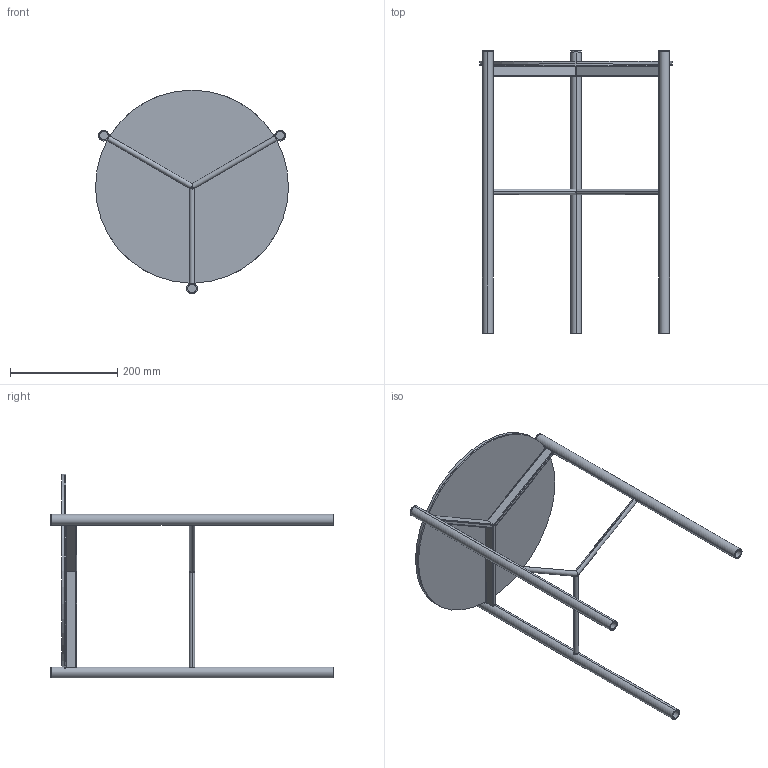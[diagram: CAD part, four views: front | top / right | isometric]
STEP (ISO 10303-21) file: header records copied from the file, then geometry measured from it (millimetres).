
FILE_DESCRIPTION (( 'STEP AP203' ), '1' );
FILE_NAME ('J601G.STEP', '2024-08-06T11:33:35', ( '' ), ( '' ), 'SwSTEP 2.0', 'SolidWorks 2022', '' );
FILE_SCHEMA (( 'CONFIG_CONTROL_DESIGN' ));
Length unit declared in the file: millimetre
Products named in the file (3): J601G; JXXXS00000000-00-jack metallo grezzo tutte le misure_J7B000001-JACK TAVOLINO D.36x51h<A macchina>; C1XCRMXX-00-piani Rotondi Cristallo_C15 D.36cm
Assembly tree (2 placements, depth 2):
  J601G
    JXXXS00000000-00-jack metallo grezzo tutte le misure_J7B000001-JACK TAVOLINO D.36x51h<A macchina>
    C1XCRMXX-00-piani Rotondi Cristallo_C15 D.36cm
Bounding box: 360 x 527 x 380.07 mm (x, y, z)
Volume: 1036737.5 mm3; surface area: 682607.6 mm2
Topology: 14 solids, 14 shells, 125 faces, 293 edges, 194 vertices
Faces by surface type: cylinder 73, plane 52
Entity records: 4516 total; most frequent: CARTESIAN_POINT 1449, ORIENTED_EDGE 586, DIRECTION 541, EDGE_CURVE 293, AXIS2_PLACEMENT_3D 196, VERTEX_POINT 194, VECTOR 149, LINE 149
